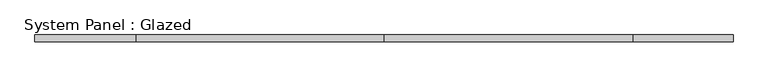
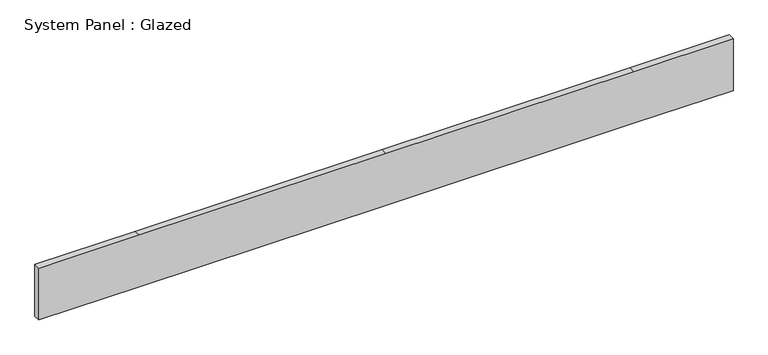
"""IFC4 building model written with IfcOpenShell, lengths in millimetres: plate geometry, System Panel : Glazed."""

from ifc_helpers import new_model, si_unit, frame, origin, place, context, project, spatial, polyline, outline, extrude, source, transform, mapped, element, save


def system_panel_glazed_1a787650(model_context):
    return source(origin(), model_context, "Body", "SweptSolid", [
        extrude(outline(polyline([(0.0, -1328.0571429), (0.0, -943.4285714), (0.0, 0.0), (0.0, 948.8714286), (0.0, 1328.0571429), (209.55, 1328.0571429), (209.55, 948.8714286), (209.55, 0.0), (209.55, -943.4285714), (209.55, -1328.0571429), (0.0, -1328.0571429)])), frame((0.0, 19.05, 0.0), z_axis=(0.0, 1.0, 0.0), x_axis=(0.0, 0.0, 1.0)), (0.0, 0.0, 1.0), 25.4),
    ])


if __name__ == "__main__":
    model = new_model("IFC4")
    model_context = context("Model", 3, world=origin())
    ifc_project = project(units=[si_unit("LENGTHUNIT", "METRE", prefix="MILLI")], contexts=[model_context])
    site = spatial("IfcSite", under=ifc_project)
    building = spatial("IfcBuilding", under=site)
    placement = place(None, origin())
    system_panel_glazed_shape = system_panel_glazed_1a787650(model_context)
    element("IfcPlate", 1, ObjectType="System Panel : Glazed", at=placement, inside=building, context=model_context, shape_type="MappedRepresentation", body=[
        mapped(system_panel_glazed_shape, transform((0.0, 0.0, 0.0), x_axis=(1.0, 0.0, 0.0), y_axis=(0.0, 1.0, 0.0), z_axis=(0.0, 0.0, 1.0))),
    ])
    save(model, "model.ifc")
